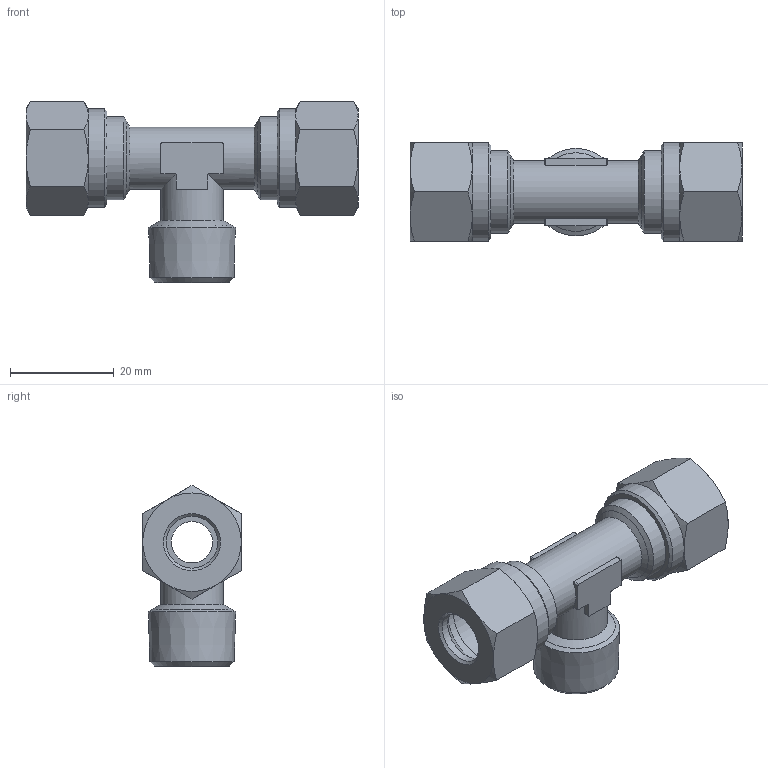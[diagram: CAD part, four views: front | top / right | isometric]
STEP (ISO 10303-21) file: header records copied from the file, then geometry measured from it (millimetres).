
FILE_DESCRIPTION(('Bauteilbeschreibung','HiCAD-Model','HiCAD-STEP-TRANSLATION','Bauteilbeschreibung'),'2;1');
FILE_NAME('B:/ABGLEICH/ZEICHNUNGEN/STEP FÜR INTERNET/STEP/207/92208_207_10_3-8.STP','2011-10-18T14:06:47+00:00',('Konstrukteur'),('Konstrukteur Firma GmbH'),' HiCAD neXt 2008, Step 3.1.1401.2J ','HiCAD neXt 2008','confidential');
FILE_SCHEMA(('AUTOMOTIVE_DESIGN { 1 2 10303 214 0 1 1 1 }'));
Length unit declared in the file: millimetre
Products named in the file (12): A2208_207_10_3_8; A6804; A68040; DIN 13_M16X1_5; A68041; A68042; DIN0130M16X105; A2208; A22080; DIN0130M16X1050; DIN0130M16X1051; R 3_8
Assembly tree (11 placements, depth 3):
  A2208_207_10_3_8
    A6804
    A68040
      DIN 13_M16X1_5
    A68041
    A68042
      DIN0130M16X105
    A2208
    A22080
      DIN0130M16X1050
      DIN0130M16X1051
      R 3_8
Bounding box: 64 x 19 x 34.97 mm (x, y, z)
Volume: 10472.5 mm3; surface area: 13628.8 mm2
Topology: 8 solids, 8 shells, 137 faces, 325 edges, 199 vertices
Faces by surface type: cone 53, plane 43, cylinder 41
Full cylindrical faces by diameter (mm): 8 x2, 10 x4, 11 x1, 12 x2, 14.16 x8, 16 x6, 19 x2
Entity records: 7681 total; most frequent: CARTESIAN_POINT 3447, DIRECTION 616, ORIENTED_EDGE 504, AXIS2_PLACEMENT_3D 273, EDGE_CURVE 252, COLOUR_RGB 240, PRESENTATION_STYLE_ASSIGNMENT 240, CURVE_STYLE 232
